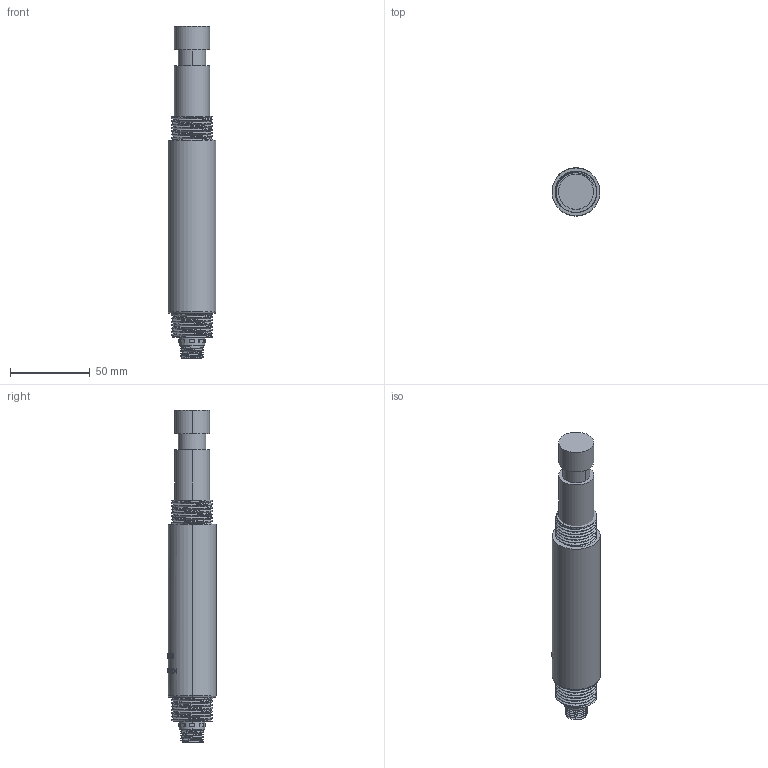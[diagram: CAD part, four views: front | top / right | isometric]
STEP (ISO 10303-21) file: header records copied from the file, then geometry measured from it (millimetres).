
FILE_DESCRIPTION((''),'2;1');
FILE_NAME('KWS-350-D_ASM','2026-01-26T08:21:03',('28740194'),(''),'CREO PARAMETRIC BY PTC INC, 2024063','CREO PARAMETRIC BY PTC INC, 2024063','');
FILE_SCHEMA(('CONFIG_CONTROL_DESIGN'));
Length unit declared in the file: millimetre
Products named in the file (5): DD; 0001; 222000; 260_ASM; KWS-350-D_ASM
Assembly tree (5 placements, depth 3):
  KWS-350-D_ASM
    DD
    260_ASM
      0001
      222000
    222000
Bounding box: 30 x 30.18 x 208 mm (x, y, z)
Volume: 118279.9 mm3; surface area: 24303.9 mm2
Topology: 4 solids, 4 shells, 524 faces, 1443 edges, 958 vertices
Faces by surface type: bspline 391, cylinder 73, plane 58, torus 2
Entity records: 24333 total; most frequent: CARTESIAN_POINT 14246, ORIENTED_EDGE 2756, EDGE_CURVE 1378, B_SPLINE_CURVE_WITH_KNOTS 938, DIRECTION 917, VERTEX_POINT 916, EDGE_LOOP 530, FACE_OUTER_BOUND 499
